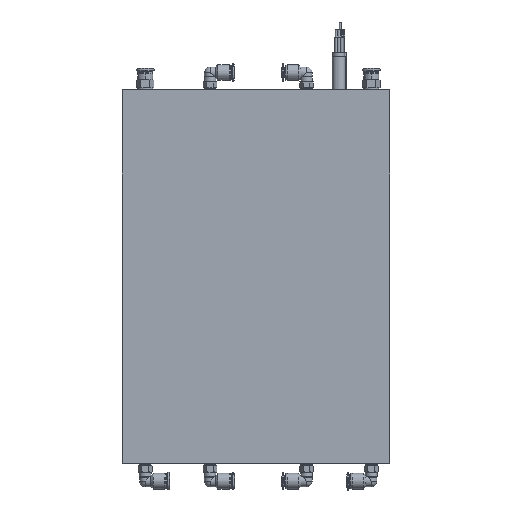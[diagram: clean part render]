
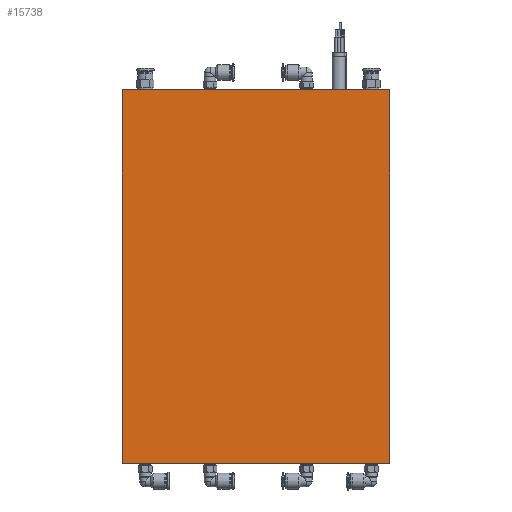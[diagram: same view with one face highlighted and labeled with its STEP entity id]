
A CAD part, top view. The second image highlights one B-rep face of the part: STEP entity #15738.
In plain terms, the highlighted planar face has unit normal (0, 0, 1).
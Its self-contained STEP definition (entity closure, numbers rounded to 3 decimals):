
#1276 = LINE ( 'NONE', #20308, #15170 ) ;
#3447 = EDGE_CURVE ( 'NONE', #25848, #33379, #31286, .T. ) ;
#3556 = VERTEX_POINT ( 'NONE', #16722 ) ;
#3888 = VECTOR ( 'NONE', #10611, 1000. ) ;
#4736 = VERTEX_POINT ( 'NONE', #21984 ) ;
#4832 = LINE ( 'NONE', #15480, #3888 ) ;
#6467 = DIRECTION ( 'NONE',  ( 0., 0., 1. ) ) ;
#8555 = EDGE_LOOP ( 'NONE', ( #22274, #28836, #13934, #13256 ) ) ;
#8722 = EDGE_CURVE ( 'NONE', #33379, #3556, #4832, .T. ) ;
#10611 = DIRECTION ( 'NONE',  ( 0., 1., 0. ) ) ;
#11063 = AXIS2_PLACEMENT_3D ( 'NONE', #30401, #6467, #28132 ) ;
#12613 = DIRECTION ( 'NONE',  ( 0., -1., 0. ) ) ;
#12754 = CARTESIAN_POINT ( 'NONE',  ( 129.059, 0.274, 270.881 ) ) ;
#13256 = ORIENTED_EDGE ( 'NONE', *, *, #24297, .T. ) ;
#13934 = ORIENTED_EDGE ( 'NONE', *, *, #31283, .F. ) ;
#15170 = VECTOR ( 'NONE', #12613, 1000. ) ;
#15480 = CARTESIAN_POINT ( 'NONE',  ( 155.933, -313.726, 270.881 ) ) ;
#15738 = ADVANCED_FACE ( 'NONE', ( #30738 ), #19719, .T. ) ;
#16722 = CARTESIAN_POINT ( 'NONE',  ( 155.933, 248.274, 270.881 ) ) ;
#19270 = LINE ( 'NONE', #33090, #25542 ) ;
#19719 = PLANE ( 'NONE',  #11063 ) ;
#20308 = CARTESIAN_POINT ( 'NONE',  ( -21.214, -313.726, 270.881 ) ) ;
#21278 = DIRECTION ( 'NONE',  ( 1., 0., 0. ) ) ;
#21984 = CARTESIAN_POINT ( 'NONE',  ( -21.214, 248.274, 270.881 ) ) ;
#22274 = ORIENTED_EDGE ( 'NONE', *, *, #3447, .T. ) ;
#22973 = CARTESIAN_POINT ( 'NONE',  ( 155.933, 0.274, 270.881 ) ) ;
#24297 = EDGE_CURVE ( 'NONE', #4736, #25848, #1276, .T. ) ;
#25542 = VECTOR ( 'NONE', #32568, 1000. ) ;
#25848 = VERTEX_POINT ( 'NONE', #28676 ) ;
#28132 = DIRECTION ( 'NONE',  ( 0., 1., 0. ) ) ;
#28676 = CARTESIAN_POINT ( 'NONE',  ( -21.214, 0.274, 270.881 ) ) ;
#28836 = ORIENTED_EDGE ( 'NONE', *, *, #8722, .T. ) ;
#30401 = CARTESIAN_POINT ( 'NONE',  ( 129.059, -313.726, 270.881 ) ) ;
#30738 = FACE_OUTER_BOUND ( 'NONE', #8555, .T. ) ;
#31283 = EDGE_CURVE ( 'NONE', #4736, #3556, #19270, .T. ) ;
#31286 = LINE ( 'NONE', #12754, #32743 ) ;
#32568 = DIRECTION ( 'NONE',  ( 1., 0., 0. ) ) ;
#32743 = VECTOR ( 'NONE', #21278, 1000. ) ;
#33090 = CARTESIAN_POINT ( 'NONE',  ( 129.059, 248.274, 270.881 ) ) ;
#33379 = VERTEX_POINT ( 'NONE', #22973 ) ;
